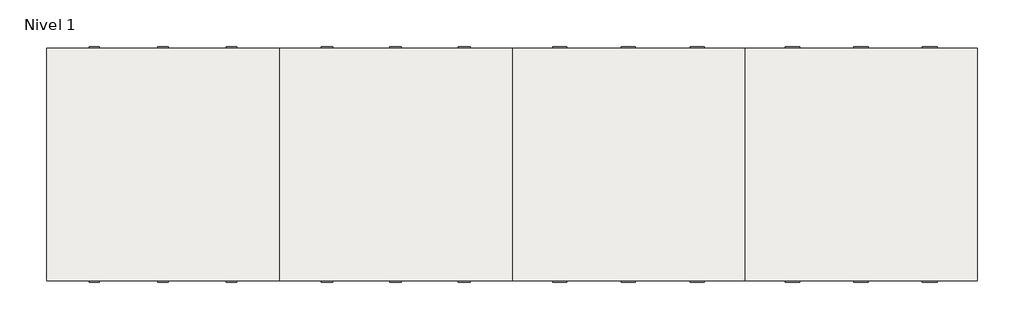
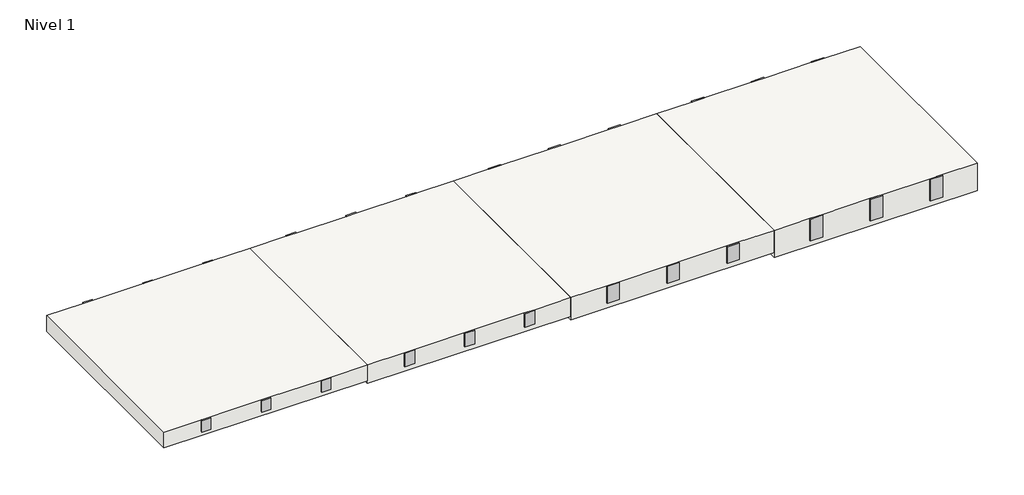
# One storey: 12 beams, 4 slabs.
"""IFC4 building model written with IfcOpenShell, lengths in millimetres."""

from ifc_helpers import new_model, si_unit, frame, origin, place, context, project, spatial, polyline, outline, extrude, faceted_brep, element, save

model = new_model("IFC4")

# Units and contexts
model_context = context("Model", 3, world=origin())
ifc_project = project(units=[si_unit("LENGTHUNIT", "METRE", prefix="MILLI")], contexts=[model_context])

# Site, building, storey
site = spatial("IfcSite", under=ifc_project)
building = spatial("IfcBuilding", under=site)
storey = spatial("IfcBuildingStorey", under=building, Name="Nivel 1", Elevation=0.0)

# Beams
placement = place(None, origin())
element("IfcBeam", 1, ObjectType="Hormigón-Viga rectangular : Viga LE 160", at=placement, inside=storey, context=model_context, shape_type="SweptSolid", body=[
    extrude(outline(polyline([(20898.879298, 13099.4618621), (20808.879298, 13099.4618621), (20808.879298, 13112.1618621), (20898.879298, 13112.1618621), (20898.879298, 13099.4618621)])), frame((0.0, 0.0, -120.0), z_axis=(0.0, 0.0, 1.0), x_axis=(1.0, 0.0, 0.0)), (0.0, 0.0, 1.0), 120.0),
    extrude(outline(polyline([(20808.879298, 15124.8618621), (20898.879298, 15124.8618621), (20898.879298, 15112.1618621), (20808.879298, 15112.1618621), (20808.879298, 15124.8618621)])), frame((0.0, 0.0, -120.0), z_axis=(0.0, 0.0, 1.0), x_axis=(1.0, 0.0, 0.0)), (0.0, 0.0, 1.0), 120.0),
])
element("IfcBeam", 2, ObjectType="Hormigón-Viga rectangular : Viga LE 160", at=placement, inside=storey, context=model_context, shape_type="SweptSolid", body=[
    extrude(outline(polyline([(20308.879298, 13099.4618621), (20218.879298, 13099.4618621), (20218.879298, 13112.1618621), (20308.879298, 13112.1618621), (20308.879298, 13099.4618621)])), frame((0.0, 0.0, -120.0), z_axis=(0.0, 0.0, 1.0), x_axis=(1.0, 0.0, 0.0)), (0.0, 0.0, 1.0), 120.0),
    extrude(outline(polyline([(20218.879298, 15124.8618621), (20308.879298, 15124.8618621), (20308.879298, 15112.1618621), (20218.879298, 15112.1618621), (20218.879298, 15124.8618621)])), frame((0.0, 0.0, -120.0), z_axis=(0.0, 0.0, 1.0), x_axis=(1.0, 0.0, 0.0)), (0.0, 0.0, 1.0), 120.0),
])
element("IfcBeam", 3, ObjectType="Hormigón-Viga rectangular : Viga LE 160", at=placement, inside=storey, context=model_context, shape_type="SweptSolid", body=[
    extrude(outline(polyline([(19718.879298, 13099.4618621), (19628.879298, 13099.4618621), (19628.879298, 13112.1618621), (19718.879298, 13112.1618621), (19718.879298, 13099.4618621)])), frame((0.0, 0.0, -120.0), z_axis=(0.0, 0.0, 1.0), x_axis=(1.0, 0.0, 0.0)), (0.0, 0.0, 1.0), 120.0),
    extrude(outline(polyline([(19628.879298, 15124.8618621), (19718.879298, 15124.8618621), (19718.879298, 15112.1618621), (19628.879298, 15112.1618621), (19628.879298, 15124.8618621)])), frame((0.0, 0.0, -120.0), z_axis=(0.0, 0.0, 1.0), x_axis=(1.0, 0.0, 0.0)), (0.0, 0.0, 1.0), 120.0),
])
element("IfcBeam", 4, ObjectType="Hormigón-Viga rectangular : Viga LE 185", at=placement, inside=storey, context=model_context, shape_type="SweptSolid", body=[
    extrude(outline(polyline([(22903.879298, 13099.4618621), (22803.879298, 13099.4618621), (22803.879298, 13112.1618621), (22903.879298, 13112.1618621), (22903.879298, 13099.4618621)])), frame((0.0, 0.0, -140.0), z_axis=(0.0, 0.0, 1.0), x_axis=(1.0, 0.0, 0.0)), (0.0, 0.0, 1.0), 140.0),
    extrude(outline(polyline([(22803.879298, 15124.8618621), (22903.879298, 15124.8618621), (22903.879298, 15112.1618621), (22803.879298, 15112.1618621), (22803.879298, 15124.8618621)])), frame((0.0, 0.0, -140.0), z_axis=(0.0, 0.0, 1.0), x_axis=(1.0, 0.0, 0.0)), (0.0, 0.0, 1.0), 140.0),
])
element("IfcBeam", 5, ObjectType="Hormigón-Viga rectangular : Viga LE 185", at=placement, inside=storey, context=model_context, shape_type="SweptSolid", body=[
    extrude(outline(polyline([(22313.879298, 13099.4618621), (22213.879298, 13099.4618621), (22213.879298, 13112.1618621), (22313.879298, 13112.1618621), (22313.879298, 13099.4618621)])), frame((0.0, 0.0, -140.0), z_axis=(0.0, 0.0, 1.0), x_axis=(1.0, 0.0, 0.0)), (0.0, 0.0, 1.0), 140.0),
    extrude(outline(polyline([(22213.879298, 15124.8618621), (22313.879298, 15124.8618621), (22313.879298, 15112.1618621), (22213.879298, 15112.1618621), (22213.879298, 15124.8618621)])), frame((0.0, 0.0, -140.0), z_axis=(0.0, 0.0, 1.0), x_axis=(1.0, 0.0, 0.0)), (0.0, 0.0, 1.0), 140.0),
])
element("IfcBeam", 6, ObjectType="Hormigón-Viga rectangular : Viga LE 185", at=placement, inside=storey, context=model_context, shape_type="SweptSolid", body=[
    extrude(outline(polyline([(21723.879298, 13099.4618621), (21623.879298, 13099.4618621), (21623.879298, 13112.1618621), (21723.879298, 13112.1618621), (21723.879298, 13099.4618621)])), frame((0.0, 0.0, -140.0), z_axis=(0.0, 0.0, 1.0), x_axis=(1.0, 0.0, 0.0)), (0.0, 0.0, 1.0), 140.0),
    extrude(outline(polyline([(21623.879298, 15124.8618621), (21723.879298, 15124.8618621), (21723.879298, 15112.1618621), (21623.879298, 15112.1618621), (21623.879298, 15124.8618621)])), frame((0.0, 0.0, -140.0), z_axis=(0.0, 0.0, 1.0), x_axis=(1.0, 0.0, 0.0)), (0.0, 0.0, 1.0), 140.0),
])
element("IfcBeam", 7, ObjectType="Hormigón-Viga rectangular : Viga LE 225", at=placement, inside=storey, context=model_context, shape_type="SweptSolid", body=[
    extrude(outline(polyline([(24913.879298, 13099.4618621), (24793.879298, 13099.4618621), (24793.879298, 13112.1618621), (24913.879298, 13112.1618621), (24913.879298, 13099.4618621)])), frame((0.0, 0.0, -175.0), z_axis=(0.0, 0.0, 1.0), x_axis=(1.0, 0.0, 0.0)), (0.0, 0.0, 1.0), 175.0),
    extrude(outline(polyline([(24793.879298, 15124.8618621), (24913.879298, 15124.8618621), (24913.879298, 15112.1618621), (24793.879298, 15112.1618621), (24793.879298, 15124.8618621)])), frame((0.0, 0.0, -175.0), z_axis=(0.0, 0.0, 1.0), x_axis=(1.0, 0.0, 0.0)), (0.0, 0.0, 1.0), 175.0),
])
element("IfcBeam", 8, ObjectType="Hormigón-Viga rectangular : Viga LE 225", at=placement, inside=storey, context=model_context, shape_type="SweptSolid", body=[
    extrude(outline(polyline([(24323.879298, 13099.4618621), (24203.879298, 13099.4618621), (24203.879298, 13112.1618621), (24323.879298, 13112.1618621), (24323.879298, 13099.4618621)])), frame((0.0, 0.0, -175.0), z_axis=(0.0, 0.0, 1.0), x_axis=(1.0, 0.0, 0.0)), (0.0, 0.0, 1.0), 175.0),
    extrude(outline(polyline([(24203.879298, 15124.8618621), (24323.879298, 15124.8618621), (24323.879298, 15112.1618621), (24203.879298, 15112.1618621), (24203.879298, 15124.8618621)])), frame((0.0, 0.0, -175.0), z_axis=(0.0, 0.0, 1.0), x_axis=(1.0, 0.0, 0.0)), (0.0, 0.0, 1.0), 175.0),
])
element("IfcBeam", 9, ObjectType="Hormigón-Viga rectangular : Viga LE 225", at=placement, inside=storey, context=model_context, shape_type="SweptSolid", body=[
    extrude(outline(polyline([(23733.879298, 13099.4618621), (23613.879298, 13099.4618621), (23613.879298, 13112.1618621), (23733.879298, 13112.1618621), (23733.879298, 13099.4618621)])), frame((0.0, 0.0, -175.0), z_axis=(0.0, 0.0, 1.0), x_axis=(1.0, 0.0, 0.0)), (0.0, 0.0, 1.0), 175.0),
    extrude(outline(polyline([(23613.879298, 15124.8618621), (23733.879298, 15124.8618621), (23733.879298, 15112.1618621), (23613.879298, 15112.1618621), (23613.879298, 15124.8618621)])), frame((0.0, 0.0, -175.0), z_axis=(0.0, 0.0, 1.0), x_axis=(1.0, 0.0, 0.0)), (0.0, 0.0, 1.0), 175.0),
])
element("IfcBeam", 10, ObjectType="Hormigón-Viga rectangular : Viga LE 280", at=placement, inside=storey, context=model_context, shape_type="SweptSolid", body=[
    extrude(outline(polyline([(26916.379298, 13099.4618621), (26791.379298, 13099.4618621), (26791.379298, 13112.1618621), (26916.379298, 13112.1618621), (26916.379298, 13099.4618621)])), frame((0.0, 0.0, -225.0), z_axis=(0.0, 0.0, 1.0), x_axis=(1.0, 0.0, 0.0)), (0.0, 0.0, 1.0), 225.0),
    extrude(outline(polyline([(26791.379298, 15124.8618621), (26916.379298, 15124.8618621), (26916.379298, 15112.1618621), (26791.379298, 15112.1618621), (26791.379298, 15124.8618621)])), frame((0.0, 0.0, -225.0), z_axis=(0.0, 0.0, 1.0), x_axis=(1.0, 0.0, 0.0)), (0.0, 0.0, 1.0), 225.0),
])
element("IfcBeam", 11, ObjectType="Hormigón-Viga rectangular : Viga LE 280", at=placement, inside=storey, context=model_context, shape_type="SweptSolid", body=[
    extrude(outline(polyline([(26326.379298, 13099.4618621), (26201.379298, 13099.4618621), (26201.379298, 13112.1618621), (26326.379298, 13112.1618621), (26326.379298, 13099.4618621)])), frame((0.0, 0.0, -225.0), z_axis=(0.0, 0.0, 1.0), x_axis=(1.0, 0.0, 0.0)), (0.0, 0.0, 1.0), 225.0),
    extrude(outline(polyline([(26201.379298, 15124.8618621), (26326.379298, 15124.8618621), (26326.379298, 15112.1618621), (26201.379298, 15112.1618621), (26201.379298, 15124.8618621)])), frame((0.0, 0.0, -225.0), z_axis=(0.0, 0.0, 1.0), x_axis=(1.0, 0.0, 0.0)), (0.0, 0.0, 1.0), 225.0),
])
element("IfcBeam", 12, ObjectType="Hormigón-Viga rectangular : Viga LE 280", at=placement, inside=storey, context=model_context, shape_type="SweptSolid", body=[
    extrude(outline(polyline([(25736.379298, 13099.4618621), (25611.379298, 13099.4618621), (25611.379298, 13112.1618621), (25736.379298, 13112.1618621), (25736.379298, 13099.4618621)])), frame((0.0, 0.0, -225.0), z_axis=(0.0, 0.0, 1.0), x_axis=(1.0, 0.0, 0.0)), (0.0, 0.0, 1.0), 225.0),
    extrude(outline(polyline([(25611.379298, 15124.8618621), (25736.379298, 15124.8618621), (25736.379298, 15112.1618621), (25611.379298, 15112.1618621), (25611.379298, 15124.8618621)])), frame((0.0, 0.0, -225.0), z_axis=(0.0, 0.0, 1.0), x_axis=(1.0, 0.0, 0.0)), (0.0, 0.0, 1.0), 225.0),
])

# Slabs
element("IfcSlab", 13, ObjectType="LE - 160", at=placement, inside=storey, context=model_context, shape_type="Brep", body=[
    faceted_brep([(21263.879298, 15112.1618621, -165.0), (21263.879298, 13112.1618621, -165.0), (19263.879298, 13112.1618621, -165.0), (19263.879298, 15112.1618621, -165.0), (21263.879298, 15112.1618621, 0.0), (20898.879298, 15112.1618621, 0.0), (20808.879298, 15112.1618621, 0.0), (20308.879298, 15112.1618621, 0.0), (20218.879298, 15112.1618621, 0.0), (19718.879298, 15112.1618621, 0.0), (19628.879298, 15112.1618621, 0.0), (19263.879298, 15112.1618621, 0.0), (19263.879298, 13112.1618621, 0.0), (19628.879298, 13112.1618621, 0.0), (19718.879298, 13112.1618621, 0.0), (20218.879298, 13112.1618621, 0.0), (20308.879298, 13112.1618621, 0.0), (20808.879298, 13112.1618621, 0.0), (20898.879298, 13112.1618621, 0.0), (21263.879298, 13112.1618621, 0.0)], [[[0, 1, 2, 3]], [[4, 5, 6, 7, 8, 9, 10, 11, 12, 13, 14, 15, 16, 17, 18, 19]], [[1, 0, 4, 19]], [[2, 1, 19, 18, 17, 16, 15, 14, 13, 12]], [[3, 2, 12, 11]], [[0, 3, 11, 10, 9, 8, 7, 6, 5, 4]]]),
])
element("IfcSlab", 14, ObjectType="LE - 185", at=placement, inside=storey, context=model_context, shape_type="Brep", body=[
    faceted_brep([(23263.879298, 15112.1618621, -195.0), (23263.879298, 13112.1618621, -195.0), (21263.879298, 13112.1618621, -195.0), (21263.879298, 15112.1618621, -195.0), (23263.879298, 15112.1618621, 0.0), (22903.879298, 15112.1618621, 0.0), (22803.879298, 15112.1618621, 0.0), (22313.879298, 15112.1618621, 0.0), (22213.879298, 15112.1618621, 0.0), (21723.879298, 15112.1618621, 0.0), (21623.879298, 15112.1618621, 0.0), (21263.879298, 15112.1618621, 0.0), (21263.879298, 13112.1618621, 0.0), (21623.879298, 13112.1618621, 0.0), (21723.879298, 13112.1618621, 0.0), (22213.879298, 13112.1618621, 0.0), (22313.879298, 13112.1618621, 0.0), (22803.879298, 13112.1618621, 0.0), (22903.879298, 13112.1618621, 0.0), (23263.879298, 13112.1618621, 0.0)], [[[0, 1, 2, 3]], [[4, 5, 6, 7, 8, 9, 10, 11, 12, 13, 14, 15, 16, 17, 18, 19]], [[1, 0, 4, 19]], [[2, 1, 19, 18, 17, 16, 15, 14, 13, 12]], [[3, 2, 12, 11]], [[0, 3, 11, 10, 9, 8, 7, 6, 5, 4]]]),
])
element("IfcSlab", 15, ObjectType="LE - 225", at=placement, inside=storey, context=model_context, shape_type="Brep", body=[
    faceted_brep([(25263.879298, 15112.1618621, -230.0), (25263.879298, 13112.1618621, -230.0), (23263.879298, 13112.1618621, -230.0), (23263.879298, 15112.1618621, -230.0), (25263.879298, 15112.1618621, 0.0), (24913.879298, 15112.1618621, 0.0), (24793.879298, 15112.1618621, 0.0), (24323.879298, 15112.1618621, 0.0), (24203.879298, 15112.1618621, 0.0), (23733.879298, 15112.1618621, 0.0), (23613.879298, 15112.1618621, 0.0), (23263.879298, 15112.1618621, 0.0), (23263.879298, 13112.1618621, 0.0), (23613.879298, 13112.1618621, 0.0), (23733.879298, 13112.1618621, 0.0), (24203.879298, 13112.1618621, 0.0), (24323.879298, 13112.1618621, 0.0), (24793.879298, 13112.1618621, 0.0), (24913.879298, 13112.1618621, 0.0), (25263.879298, 13112.1618621, 0.0)], [[[0, 1, 2, 3]], [[4, 5, 6, 7, 8, 9, 10, 11, 12, 13, 14, 15, 16, 17, 18, 19]], [[1, 0, 4, 19]], [[2, 1, 19, 18, 17, 16, 15, 14, 13, 12]], [[3, 2, 12, 11]], [[0, 3, 11, 10, 9, 8, 7, 6, 5, 4]]]),
])
element("IfcSlab", 16, ObjectType="LE - 280", at=placement, inside=storey, context=model_context, shape_type="Brep", body=[
    faceted_brep([(27263.879298, 15112.1618621, -285.0), (27263.879298, 13112.1618621, -285.0), (25263.879298, 13112.1618621, -285.0), (25263.879298, 15112.1618621, -285.0), (27263.879298, 15112.1618621, 0.0), (26916.379298, 15112.1618621, 0.0), (26791.379298, 15112.1618621, 0.0), (26326.379298, 15112.1618621, 0.0), (26201.379298, 15112.1618621, 0.0), (25736.379298, 15112.1618621, 0.0), (25611.379298, 15112.1618621, 0.0), (25263.879298, 15112.1618621, 0.0), (25263.879298, 13112.1618621, 0.0), (25611.379298, 13112.1618621, 0.0), (25736.379298, 13112.1618621, 0.0), (26201.379298, 13112.1618621, 0.0), (26326.379298, 13112.1618621, 0.0), (26791.379298, 13112.1618621, 0.0), (26916.379298, 13112.1618621, 0.0), (27263.879298, 13112.1618621, 0.0)], [[[0, 1, 2, 3]], [[4, 5, 6, 7, 8, 9, 10, 11, 12, 13, 14, 15, 16, 17, 18, 19]], [[1, 0, 4, 19]], [[2, 1, 19, 18, 17, 16, 15, 14, 13, 12]], [[3, 2, 12, 11]], [[0, 3, 11, 10, 9, 8, 7, 6, 5, 4]]]),
])

save(model, "model.ifc")
